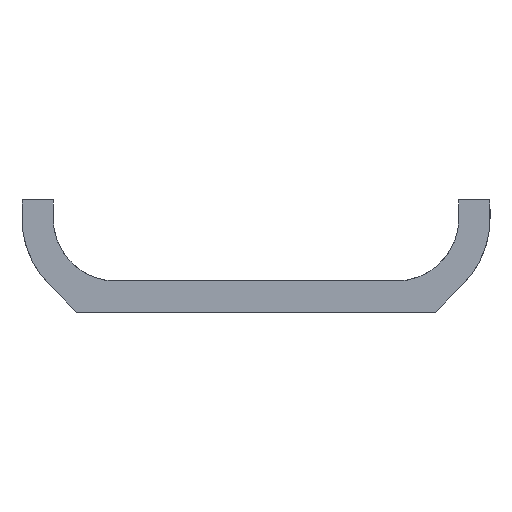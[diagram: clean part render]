
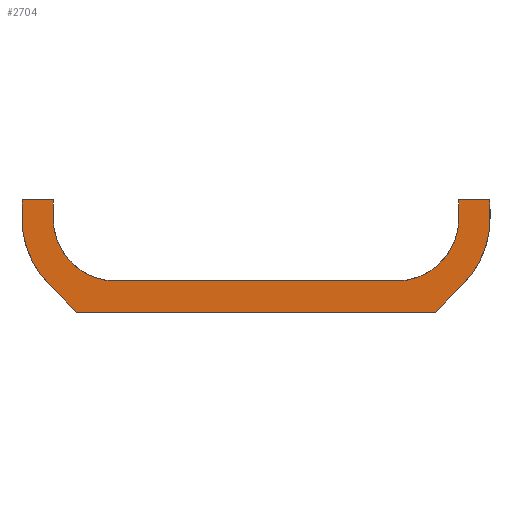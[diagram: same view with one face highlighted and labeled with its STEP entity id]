
A CAD part, front view. The second image highlights one B-rep face of the part: STEP entity #2704.
In plain terms, the highlighted planar face has unit normal (0, -1, 0).
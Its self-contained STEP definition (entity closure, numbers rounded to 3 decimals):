
#4 = LINE ( 'NONE', #2915, #3617 ) ;
#6 = CARTESIAN_POINT ( 'NONE',  ( -75., 0., 30. ) ) ;
#84 = CIRCLE ( 'NONE', #206, 30. ) ;
#97 = LINE ( 'NONE', #1479, #3015 ) ;
#133 = DIRECTION ( 'NONE',  ( 1., 0., 0. ) ) ;
#143 = DIRECTION ( 'NONE',  ( 0., 1., 0. ) ) ;
#147 = LINE ( 'NONE', #2392, #935 ) ;
#181 = DIRECTION ( 'NONE',  ( 0., 1., 0. ) ) ;
#206 = AXIS2_PLACEMENT_3D ( 'NONE', #1629, #1336, #3635 ) ;
#213 = AXIS2_PLACEMENT_3D ( 'NONE', #780, #1338, #1631 ) ;
#250 = DIRECTION ( 'NONE',  ( 1., 0., 0. ) ) ;
#291 = VERTEX_POINT ( 'NONE', #2958 ) ;
#305 = EDGE_CURVE ( 'NONE', #977, #3009, #97, .T. ) ;
#350 = DIRECTION ( 'NONE',  ( -0.707, 0., 0.707 ) ) ;
#368 = VERTEX_POINT ( 'NONE', #1810 ) ;
#448 = VERTEX_POINT ( 'NONE', #491 ) ;
#450 = VECTOR ( 'NONE', #836, 1000. ) ;
#468 = EDGE_CURVE ( 'NONE', #2819, #578, #84, .T. ) ;
#491 = CARTESIAN_POINT ( 'NONE',  ( 45., 0., 10. ) ) ;
#500 = CARTESIAN_POINT ( 'NONE',  ( 75., 0., 36. ) ) ;
#578 = VERTEX_POINT ( 'NONE', #6 ) ;
#582 = EDGE_CURVE ( 'NONE', #3009, #2767, #2288, .T. ) ;
#686 = VECTOR ( 'NONE', #2569, 1000. ) ;
#688 = ORIENTED_EDGE ( 'NONE', *, *, #1722, .F. ) ;
#740 = DIRECTION ( 'NONE',  ( 0., 0., 1. ) ) ;
#747 = EDGE_CURVE ( 'NONE', #291, #1661, #1313, .T. ) ;
#780 = CARTESIAN_POINT ( 'NONE',  ( 45., 0., 30. ) ) ;
#785 = CARTESIAN_POINT ( 'NONE',  ( 66.213, 0., 8.787 ) ) ;
#792 = ORIENTED_EDGE ( 'NONE', *, *, #2640, .T. ) ;
#804 = ORIENTED_EDGE ( 'NONE', *, *, #1682, .F. ) ;
#807 = CARTESIAN_POINT ( 'NONE',  ( -65., 0., 30. ) ) ;
#836 = DIRECTION ( 'NONE',  ( 1., 0., 0. ) ) ;
#878 = ORIENTED_EDGE ( 'NONE', *, *, #933, .F. ) ;
#907 = DIRECTION ( 'NONE',  ( 1., 0., 0. ) ) ;
#933 = EDGE_CURVE ( 'NONE', #3668, #1066, #1625, .T. ) ;
#935 = VECTOR ( 'NONE', #2969, 1000. ) ;
#959 = ORIENTED_EDGE ( 'NONE', *, *, #3301, .F. ) ;
#977 = VERTEX_POINT ( 'NONE', #1967 ) ;
#993 = ORIENTED_EDGE ( 'NONE', *, *, #3513, .F. ) ;
#1026 = FACE_OUTER_BOUND ( 'NONE', #1105, .T. ) ;
#1066 = VERTEX_POINT ( 'NONE', #1149 ) ;
#1105 = EDGE_LOOP ( 'NONE', ( #1729, #878, #993, #1383, #2599, #1985, #792, #688, #2197, #804, #2746, #2156, #1157, #959 ) ) ;
#1118 = EDGE_CURVE ( 'NONE', #977, #1502, #2052, .T. ) ;
#1119 = CIRCLE ( 'NONE', #213, 20. ) ;
#1139 = CARTESIAN_POINT ( 'NONE',  ( -75., 0., 10. ) ) ;
#1149 = CARTESIAN_POINT ( 'NONE',  ( 57.426, 0., 0. ) ) ;
#1157 = ORIENTED_EDGE ( 'NONE', *, *, #468, .F. ) ;
#1185 = EDGE_CURVE ( 'NONE', #291, #578, #147, .T. ) ;
#1287 = VECTOR ( 'NONE', #2072, 1000. ) ;
#1313 = LINE ( 'NONE', #2157, #1456 ) ;
#1336 = DIRECTION ( 'NONE',  ( 0., 1., 0. ) ) ;
#1338 = DIRECTION ( 'NONE',  ( 0., 1., 0. ) ) ;
#1383 = ORIENTED_EDGE ( 'NONE', *, *, #582, .F. ) ;
#1442 = LINE ( 'NONE', #1139, #1580 ) ;
#1456 = VECTOR ( 'NONE', #133, 1000. ) ;
#1470 = CARTESIAN_POINT ( 'NONE',  ( -45., 0., 30. ) ) ;
#1479 = CARTESIAN_POINT ( 'NONE',  ( 65., 0., 36. ) ) ;
#1488 = CARTESIAN_POINT ( 'NONE',  ( 65., 0., 36. ) ) ;
#1502 = VERTEX_POINT ( 'NONE', #2695 ) ;
#1580 = VECTOR ( 'NONE', #250, 1000. ) ;
#1625 = LINE ( 'NONE', #3120, #2601 ) ;
#1629 = CARTESIAN_POINT ( 'NONE',  ( -45., 0., 30. ) ) ;
#1631 = DIRECTION ( 'NONE',  ( 0., 0., 1. ) ) ;
#1652 = CARTESIAN_POINT ( 'NONE',  ( 75., 0., 10. ) ) ;
#1654 = CARTESIAN_POINT ( 'NONE',  ( -65., 0., 36. ) ) ;
#1661 = VERTEX_POINT ( 'NONE', #1654 ) ;
#1662 = EDGE_CURVE ( 'NONE', #1697, #1066, #2290, .T. ) ;
#1682 = EDGE_CURVE ( 'NONE', #1661, #3664, #3075, .T. ) ;
#1697 = VERTEX_POINT ( 'NONE', #2861 ) ;
#1721 = CARTESIAN_POINT ( 'NONE',  ( -75., 0., 0. ) ) ;
#1722 = EDGE_CURVE ( 'NONE', #368, #448, #1442, .T. ) ;
#1729 = ORIENTED_EDGE ( 'NONE', *, *, #1662, .T. ) ;
#1767 = DIRECTION ( 'NONE',  ( 0., 0., 1. ) ) ;
#1788 = CARTESIAN_POINT ( 'NONE',  ( -66.213, 0., 8.787 ) ) ;
#1810 = CARTESIAN_POINT ( 'NONE',  ( -45., 0., 10. ) ) ;
#1967 = CARTESIAN_POINT ( 'NONE',  ( 65., 0., 36. ) ) ;
#1971 = CARTESIAN_POINT ( 'NONE',  ( 75., 0., 30. ) ) ;
#1985 = ORIENTED_EDGE ( 'NONE', *, *, #1118, .T. ) ;
#2052 = LINE ( 'NONE', #1488, #1287 ) ;
#2072 = DIRECTION ( 'NONE',  ( 0., 0., -1. ) ) ;
#2156 = ORIENTED_EDGE ( 'NONE', *, *, #1185, .T. ) ;
#2157 = CARTESIAN_POINT ( 'NONE',  ( -75., 0., 36. ) ) ;
#2197 = ORIENTED_EDGE ( 'NONE', *, *, #3368, .T. ) ;
#2213 = DIRECTION ( 'NONE',  ( -0.707, 0., -0.707 ) ) ;
#2288 = LINE ( 'NONE', #1652, #2837 ) ;
#2290 = LINE ( 'NONE', #1721, #450 ) ;
#2392 = CARTESIAN_POINT ( 'NONE',  ( -75., 0., 10. ) ) ;
#2426 = AXIS2_PLACEMENT_3D ( 'NONE', #3297, #181, #740 ) ;
#2429 = DIRECTION ( 'NONE',  ( 0., 0., -1. ) ) ;
#2485 = AXIS2_PLACEMENT_3D ( 'NONE', #1470, #2927, #1767 ) ;
#2489 = CIRCLE ( 'NONE', #2960, 30. ) ;
#2502 = PLANE ( 'NONE',  #2426 ) ;
#2547 = CIRCLE ( 'NONE', #2485, 20. ) ;
#2569 = DIRECTION ( 'NONE',  ( 0., 0., -1. ) ) ;
#2599 = ORIENTED_EDGE ( 'NONE', *, *, #305, .F. ) ;
#2601 = VECTOR ( 'NONE', #2213, 1000. ) ;
#2640 = EDGE_CURVE ( 'NONE', #1502, #448, #1119, .T. ) ;
#2695 = CARTESIAN_POINT ( 'NONE',  ( 65., 0., 30. ) ) ;
#2704 = ADVANCED_FACE ( 'NONE', ( #1026 ), #2502, .F. ) ;
#2746 = ORIENTED_EDGE ( 'NONE', *, *, #747, .F. ) ;
#2767 = VERTEX_POINT ( 'NONE', #1971 ) ;
#2819 = VERTEX_POINT ( 'NONE', #1788 ) ;
#2837 = VECTOR ( 'NONE', #3108, 1000. ) ;
#2861 = CARTESIAN_POINT ( 'NONE',  ( -57.426, 0., 0. ) ) ;
#2915 = CARTESIAN_POINT ( 'NONE',  ( -57.426, 0., 0. ) ) ;
#2927 = DIRECTION ( 'NONE',  ( 0., 1., 0. ) ) ;
#2958 = CARTESIAN_POINT ( 'NONE',  ( -75., 0., 36. ) ) ;
#2960 = AXIS2_PLACEMENT_3D ( 'NONE', #3528, #143, #2429 ) ;
#2969 = DIRECTION ( 'NONE',  ( 0., 0., -1. ) ) ;
#3009 = VERTEX_POINT ( 'NONE', #500 ) ;
#3015 = VECTOR ( 'NONE', #907, 1000. ) ;
#3075 = LINE ( 'NONE', #3658, #686 ) ;
#3108 = DIRECTION ( 'NONE',  ( 0., 0., -1. ) ) ;
#3120 = CARTESIAN_POINT ( 'NONE',  ( 57.426, 0., 0. ) ) ;
#3297 = CARTESIAN_POINT ( 'NONE',  ( -75., 0., 10. ) ) ;
#3301 = EDGE_CURVE ( 'NONE', #1697, #2819, #4, .T. ) ;
#3368 = EDGE_CURVE ( 'NONE', #368, #3664, #2547, .T. ) ;
#3513 = EDGE_CURVE ( 'NONE', #2767, #3668, #2489, .T. ) ;
#3528 = CARTESIAN_POINT ( 'NONE',  ( 45., 0., 30. ) ) ;
#3617 = VECTOR ( 'NONE', #350, 1000. ) ;
#3635 = DIRECTION ( 'NONE',  ( 0., 0., 1. ) ) ;
#3658 = CARTESIAN_POINT ( 'NONE',  ( -65., 0., 36. ) ) ;
#3664 = VERTEX_POINT ( 'NONE', #807 ) ;
#3668 = VERTEX_POINT ( 'NONE', #785 ) ;
